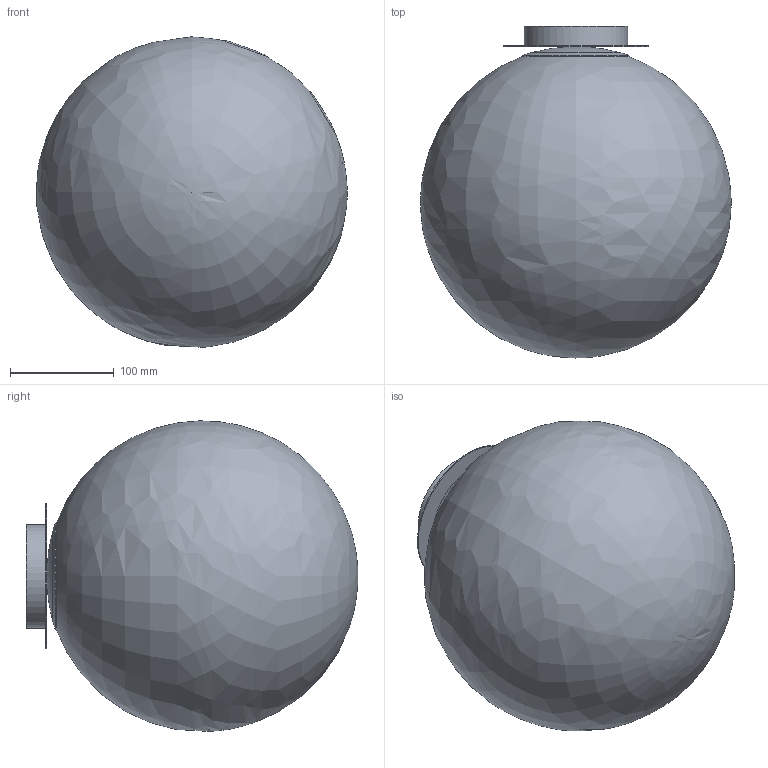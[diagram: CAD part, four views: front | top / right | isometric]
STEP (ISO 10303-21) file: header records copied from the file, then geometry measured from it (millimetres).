
FILE_DESCRIPTION(('FreeCAD Model'),'2;1');
FILE_NAME('Open CASCADE Shape Model','2022-12-21T10:55:40',('Author'),( ''),'Open CASCADE STEP processor 7.6','FreeCAD','Unknown');
FILE_SCHEMA(('AUTOMOTIVE_DESIGN { 1 0 10303 214 1 1 1 1 }'));
Length unit declared in the file: millimetre
Products named in the file (6): Unnamed2; PARMA_P3946180_3D; PARMA_P3946180_3D001; PARMA_P3946180_3D002; PARMA_P3946180_3D003; PARMA_P3946180_3D004
Assembly tree (5 placements, depth 2):
  Unnamed2
    PARMA_P3946180_3D
    PARMA_P3946180_3D001
    PARMA_P3946180_3D002
    PARMA_P3946180_3D003
    PARMA_P3946180_3D004
Bounding box: 299.55 x 320.24 x 299.4 mm (x, y, z)
Volume: 670019.9 mm3; surface area: 627442.8 mm2
Topology: 5 solids, 5 shells, 26 faces, 61 edges, 44 vertices
Faces by surface type: bspline 26
Entity records: 2667 total; most frequent: CARTESIAN_POINT 1576, ORIENTED_EDGE 118, PCURVE 118, DEFINITIONAL_REPRESENTATION 118, DIRECTION 100, LINE 88, VECTOR 88, EDGE_CURVE 59
